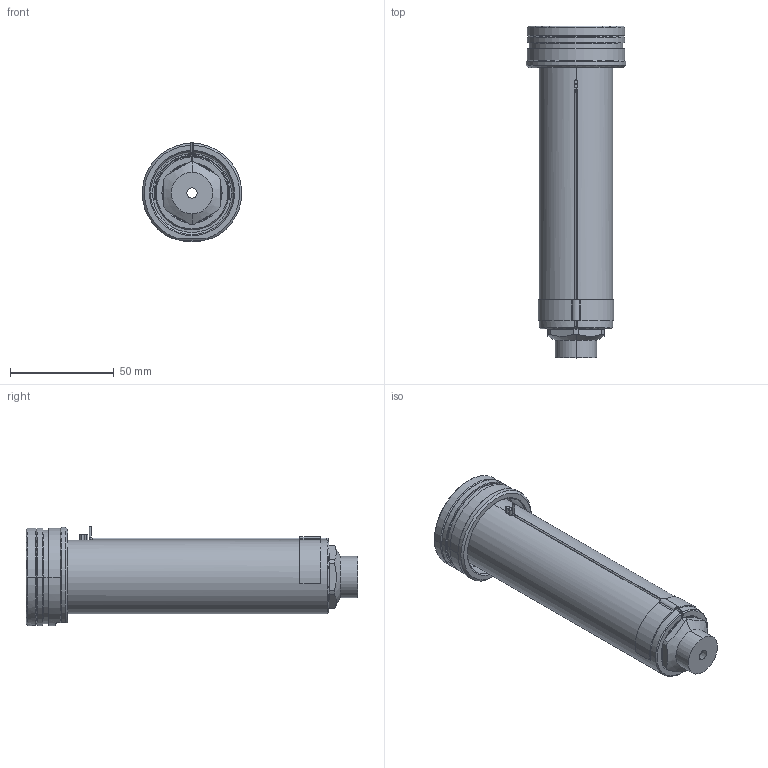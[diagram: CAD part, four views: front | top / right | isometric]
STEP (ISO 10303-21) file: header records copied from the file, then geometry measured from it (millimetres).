
FILE_DESCRIPTION((''),'2;1');
FILE_NAME('EO16_VG-FB_STD_140_SW','2024-02-19T13:43:18',('sundharh'),(''),'CREO PARAMETRIC BY PTC INC, 2023154','CREO PARAMETRIC BY PTC INC, 2023154','');
FILE_SCHEMA(('CONFIG_CONTROL_DESIGN'));
Length unit declared in the file: millimetre
Products named in the file (1): EO16_VG-FB_STD_140_SW
Bounding box: 47.97 x 160 x 48 mm (x, y, z)
Volume: 132039.6 mm3; surface area: 34558.8 mm2
Topology: 1 solids, 1 shells, 197 faces, 474 edges, 286 vertices
Faces by surface type: cylinder 72, plane 47, cone 39, torus 24, bspline 13, sphere 2
Entity records: 6629 total; most frequent: CARTESIAN_POINT 1949, DIRECTION 1054, ORIENTED_EDGE 936, EDGE_CURVE 468, AXIS2_PLACEMENT_3D 442, VERTEX_POINT 286, CIRCLE 258, EDGE_LOOP 214
